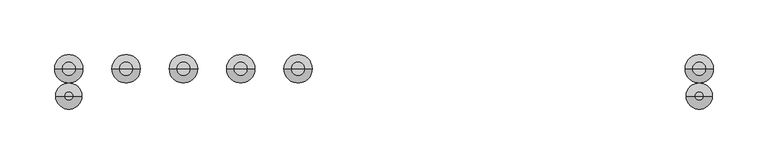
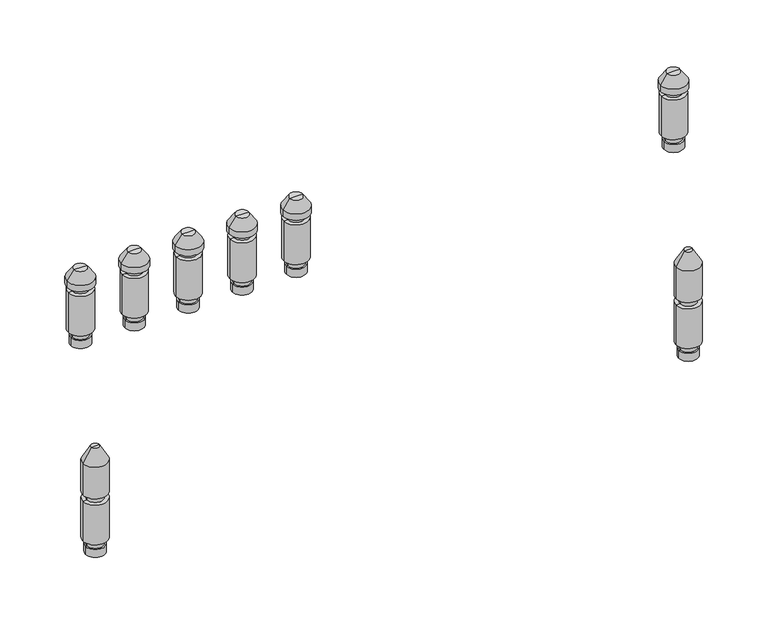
"""IFC4 building model written with IfcOpenShell, lengths in millimetres: valve geometry, PL AT_Manifold_FT-EV : 13 circuits."""

from ifc_helpers import new_model, si_unit, frame, origin, place, context, project, spatial, polyline, circle_curve, source, transform, mapped, element, save
from ifc_brep_helpers import plane_surface, cylinder_surface, revolved_surface, advanced_brep


def valve_b9f81a7f(model_context):
    return source(origin(), model_context, "Body", "AdvancedBrep", [
        advanced_brep(
        [(295.0, 25.0, 164.88733), (314.0, 25.0, 164.88733), (304.5, 25.0, 164.88733), (295.0, 25.0, 172.9630354), (314.0, 25.0, 172.9630354), (296.5, 25.0, 172.9630354), (312.5, 25.0, 172.9630354), (296.5, 25.0, 179.669747), (312.5, 25.0, 179.669747), (292.5, 25.0, 179.669747), (316.5, 25.0, 179.669747), (292.5, 25.0, 220.330253), (316.5, 25.0, 220.330253), (296.5, 25.0, 220.330253), (312.5, 25.0, 220.330253), (296.5, 25.0, 226.0474786), (312.5, 25.0, 226.0474786), (291.5, 25.0, 226.0474786), (317.5, 25.0, 226.0474786), (291.5, 25.0, 232.337955), (317.5, 25.0, 232.337955), (298.1551779, 25.0, 241.842534), (310.8448221, 25.0, 241.842534), (304.5, 25.0, 241.842534)],
        [
            (0, 1, circle_curve(frame((304.5, 25.0, 164.88733), z_axis=(0.0, 0.0, -1.0), x_axis=(1.0, 0.0, 0.0)), 9.5)),
            (1, 2),
            (2, 0),
            (1, 0, circle_curve(frame((304.5, 25.0, 164.88733), z_axis=(0.0, 0.0, -1.0), x_axis=(1.0, 0.0, 0.0)), 9.5)),
            (3, 4, circle_curve(frame((304.5, 25.0, 172.9630354), z_axis=(0.0, 0.0, -1.0), x_axis=(1.0, 0.0, 0.0)), 9.5)),
            (4, 1),
            (0, 3),
            (4, 3, circle_curve(frame((304.5, 25.0, 172.9630354), z_axis=(0.0, 0.0, -1.0), x_axis=(1.0, 0.0, 0.0)), 9.5)),
            (5, 6, circle_curve(frame((304.5, 25.0, 172.9630354), z_axis=(0.0, 0.0, -1.0), x_axis=(1.0, 0.0, 0.0)), 8.0)),
            (6, 4),
            (3, 5),
            (6, 5, circle_curve(frame((304.5, 25.0, 172.9630354), z_axis=(0.0, 0.0, -1.0), x_axis=(1.0, 0.0, 0.0)), 8.0)),
            (7, 8, circle_curve(frame((304.5, 25.0, 179.669747), z_axis=(0.0, 0.0, -1.0), x_axis=(1.0, 0.0, 0.0)), 8.0)),
            (8, 6),
            (5, 7),
            (8, 7, circle_curve(frame((304.5, 25.0, 179.669747), z_axis=(0.0, 0.0, -1.0), x_axis=(1.0, 0.0, 0.0)), 8.0)),
            (9, 10, circle_curve(frame((304.5, 25.0, 179.669747), z_axis=(0.0, 0.0, -1.0), x_axis=(1.0, 0.0, 0.0)), 12.0)),
            (10, 8),
            (7, 9),
            (10, 9, circle_curve(frame((304.5, 25.0, 179.669747), z_axis=(0.0, 0.0, -1.0), x_axis=(1.0, 0.0, 0.0)), 12.0)),
            (11, 12, circle_curve(frame((304.5, 25.0, 220.330253), z_axis=(0.0, 0.0, -1.0), x_axis=(1.0, 0.0, 0.0)), 12.0)),
            (12, 10),
            (9, 11),
            (12, 11, circle_curve(frame((304.5, 25.0, 220.330253), z_axis=(0.0, 0.0, -1.0), x_axis=(1.0, 0.0, 0.0)), 12.0)),
            (13, 14, circle_curve(frame((304.5, 25.0, 220.330253), z_axis=(0.0, 0.0, -1.0), x_axis=(1.0, 0.0, 0.0)), 8.0)),
            (14, 12),
            (11, 13),
            (14, 13, circle_curve(frame((304.5, 25.0, 220.330253), z_axis=(0.0, 0.0, -1.0), x_axis=(1.0, 0.0, 0.0)), 8.0)),
            (15, 16, circle_curve(frame((304.5, 25.0, 226.0474786), z_axis=(0.0, 0.0, -1.0), x_axis=(1.0, 0.0, 0.0)), 8.0)),
            (16, 14),
            (13, 15),
            (16, 15, circle_curve(frame((304.5, 25.0, 226.0474786), z_axis=(0.0, 0.0, -1.0), x_axis=(1.0, 0.0, 0.0)), 8.0)),
            (17, 18, circle_curve(frame((304.5, 25.0, 226.0474786), z_axis=(0.0, 0.0, -1.0), x_axis=(1.0, 0.0, 0.0)), 13.0)),
            (18, 16),
            (15, 17),
            (18, 17, circle_curve(frame((304.5, 25.0, 226.0474786), z_axis=(0.0, 0.0, -1.0), x_axis=(1.0, 0.0, 0.0)), 13.0)),
            (19, 20, circle_curve(frame((304.5, 25.0, 232.337955), z_axis=(0.0, 0.0, -1.0), x_axis=(1.0, 0.0, 0.0)), 13.0)),
            (20, 18),
            (17, 19),
            (20, 19, circle_curve(frame((304.5, 25.0, 232.337955), z_axis=(0.0, 0.0, -1.0), x_axis=(1.0, 0.0, 0.0)), 13.0)),
            (21, 22, circle_curve(frame((304.5, 25.0, 241.842534), z_axis=(0.0, 0.0, -1.0), x_axis=(1.0, 0.0, 0.0)), 6.3448221)),
            (22, 20),
            (19, 21),
            (22, 21, circle_curve(frame((304.5, 25.0, 241.842534), z_axis=(0.0, 0.0, -1.0), x_axis=(1.0, 0.0, 0.0)), 6.3448221)),
            (23, 22),
            (21, 23),
        ],
        [
            plane_surface(frame((304.5, 25.0, 164.88733), z_axis=(0.0, 0.0, -1.0), x_axis=(1.0, 0.0, 0.0))),
            cylinder_surface(frame((304.5, 25.0, 237.7026565), z_axis=(0.0, 0.0, 1.0), x_axis=(1.0, 0.0, 0.0)), 9.5),
            plane_surface(frame((304.5, 25.0, 172.9630354), z_axis=(0.0, 0.0, 1.0), x_axis=(1.0, 0.0, 0.0))),
            cylinder_surface(frame((304.5, 25.0, 237.7026565), z_axis=(0.0, 0.0, 1.0), x_axis=(1.0, 0.0, 0.0)), 8.0),
            plane_surface(frame((304.5, 25.0, 179.669747), z_axis=(0.0, 0.0, -1.0), x_axis=(1.0, 0.0, 0.0))),
            cylinder_surface(frame((304.5, 25.0, 237.7026565), z_axis=(0.0, 0.0, 1.0), x_axis=(1.0, 0.0, 0.0)), 12.0),
            plane_surface(frame((304.5, 25.0, 220.330253), z_axis=(0.0, 0.0, 1.0), x_axis=(1.0, 0.0, 0.0))),
            plane_surface(frame((304.5, 25.0, 226.0474786), z_axis=(0.0, 0.0, -1.0), x_axis=(1.0, 0.0, 0.0))),
            cylinder_surface(frame((304.5, 25.0, 237.7026565), z_axis=(0.0, 0.0, 1.0), x_axis=(1.0, 0.0, 0.0)), 13.0),
            revolved_surface(polyline([(317.5, 25.0, 232.337955), (310.8448221, 25.0, 241.842534)]), (304.5, 25.0, 237.7026565), (0.0, 0.0, 1.0)),
            plane_surface(frame((304.5, 25.0, 241.842534), z_axis=(0.0, 0.0, 1.0), x_axis=(1.0, 0.0, 0.0))),
        ],
        [
            (0, [[1, 2, 3]]),
            (0, [[4, -3, -2]]),
            (1, [[5, 6, -1, 7]]),
            (1, [[8, -7, -4, -6]]),
            (2, [[9, 10, -5, 11]]),
            (2, [[12, -11, -8, -10]]),
            (3, [[13, 14, -9, 15]]),
            (3, [[16, -15, -12, -14]]),
            (4, [[17, 18, -13, 19]]),
            (4, [[20, -19, -16, -18]]),
            (5, [[21, 22, -17, 23]]),
            (5, [[24, -23, -20, -22]]),
            (6, [[25, 26, -21, 27]]),
            (6, [[28, -27, -24, -26]]),
            (3, [[29, 30, -25, 31]]),
            (3, [[32, -31, -28, -30]]),
            (7, [[33, 34, -29, 35]]),
            (7, [[36, -35, -32, -34]]),
            (8, [[37, 38, -33, 39]]),
            (8, [[40, -39, -36, -38]]),
            (9, [[41, 42, -37, 43]]),
            (9, [[44, -43, -40, -42]]),
            (10, [[45, -41, 46]]),
            (10, [[-46, -44, -45]]),
        ],
    ),
        advanced_brep(
        [(242.5, 25.0, 164.88733), (261.5, 25.0, 164.88733), (252.0, 25.0, 164.88733), (242.5, 25.0, 172.9630354), (261.5, 25.0, 172.9630354), (244.0, 25.0, 172.9630354), (260.0, 25.0, 172.9630354), (244.0, 25.0, 179.669747), (260.0, 25.0, 179.669747), (240.0, 25.0, 179.669747), (264.0, 25.0, 179.669747), (240.0, 25.0, 220.330253), (264.0, 25.0, 220.330253), (244.0, 25.0, 220.330253), (260.0, 25.0, 220.330253), (244.0, 25.0, 226.0474786), (260.0, 25.0, 226.0474786), (239.0, 25.0, 226.0474786), (265.0, 25.0, 226.0474786), (239.0, 25.0, 232.337955), (265.0, 25.0, 232.337955), (245.6551779, 25.0, 241.842534), (258.3448221, 25.0, 241.842534), (252.0, 25.0, 241.842534)],
        [
            (0, 1, circle_curve(frame((252.0, 25.0, 164.88733), z_axis=(0.0, 0.0, -1.0), x_axis=(1.0, 0.0, 0.0)), 9.5)),
            (1, 2),
            (2, 0),
            (1, 0, circle_curve(frame((252.0, 25.0, 164.88733), z_axis=(0.0, 0.0, -1.0), x_axis=(1.0, 0.0, 0.0)), 9.5)),
            (3, 4, circle_curve(frame((252.0, 25.0, 172.9630354), z_axis=(0.0, 0.0, -1.0), x_axis=(1.0, 0.0, 0.0)), 9.5)),
            (4, 1),
            (0, 3),
            (4, 3, circle_curve(frame((252.0, 25.0, 172.9630354), z_axis=(0.0, 0.0, -1.0), x_axis=(1.0, 0.0, 0.0)), 9.5)),
            (5, 6, circle_curve(frame((252.0, 25.0, 172.9630354), z_axis=(0.0, 0.0, -1.0), x_axis=(1.0, 0.0, 0.0)), 8.0)),
            (6, 4),
            (3, 5),
            (6, 5, circle_curve(frame((252.0, 25.0, 172.9630354), z_axis=(0.0, 0.0, -1.0), x_axis=(1.0, 0.0, 0.0)), 8.0)),
            (7, 8, circle_curve(frame((252.0, 25.0, 179.669747), z_axis=(0.0, 0.0, -1.0), x_axis=(1.0, 0.0, 0.0)), 8.0)),
            (8, 6),
            (5, 7),
            (8, 7, circle_curve(frame((252.0, 25.0, 179.669747), z_axis=(0.0, 0.0, -1.0), x_axis=(1.0, 0.0, 0.0)), 8.0)),
            (9, 10, circle_curve(frame((252.0, 25.0, 179.669747), z_axis=(0.0, 0.0, -1.0), x_axis=(1.0, 0.0, 0.0)), 12.0)),
            (10, 8),
            (7, 9),
            (10, 9, circle_curve(frame((252.0, 25.0, 179.669747), z_axis=(0.0, 0.0, -1.0), x_axis=(1.0, 0.0, 0.0)), 12.0)),
            (11, 12, circle_curve(frame((252.0, 25.0, 220.330253), z_axis=(0.0, 0.0, -1.0), x_axis=(1.0, 0.0, 0.0)), 12.0)),
            (12, 10),
            (9, 11),
            (12, 11, circle_curve(frame((252.0, 25.0, 220.330253), z_axis=(0.0, 0.0, -1.0), x_axis=(1.0, 0.0, 0.0)), 12.0)),
            (13, 14, circle_curve(frame((252.0, 25.0, 220.330253), z_axis=(0.0, 0.0, -1.0), x_axis=(1.0, 0.0, 0.0)), 8.0)),
            (14, 12),
            (11, 13),
            (14, 13, circle_curve(frame((252.0, 25.0, 220.330253), z_axis=(0.0, 0.0, -1.0), x_axis=(1.0, 0.0, 0.0)), 8.0)),
            (15, 16, circle_curve(frame((252.0, 25.0, 226.0474786), z_axis=(0.0, 0.0, -1.0), x_axis=(1.0, 0.0, 0.0)), 8.0)),
            (16, 14),
            (13, 15),
            (16, 15, circle_curve(frame((252.0, 25.0, 226.0474786), z_axis=(0.0, 0.0, -1.0), x_axis=(1.0, 0.0, 0.0)), 8.0)),
            (17, 18, circle_curve(frame((252.0, 25.0, 226.0474786), z_axis=(0.0, 0.0, -1.0), x_axis=(1.0, 0.0, 0.0)), 13.0)),
            (18, 16),
            (15, 17),
            (18, 17, circle_curve(frame((252.0, 25.0, 226.0474786), z_axis=(0.0, 0.0, -1.0), x_axis=(1.0, 0.0, 0.0)), 13.0)),
            (19, 20, circle_curve(frame((252.0, 25.0, 232.337955), z_axis=(0.0, 0.0, -1.0), x_axis=(1.0, 0.0, 0.0)), 13.0)),
            (20, 18),
            (17, 19),
            (20, 19, circle_curve(frame((252.0, 25.0, 232.337955), z_axis=(0.0, 0.0, -1.0), x_axis=(1.0, 0.0, 0.0)), 13.0)),
            (21, 22, circle_curve(frame((252.0, 25.0, 241.842534), z_axis=(0.0, 0.0, -1.0), x_axis=(1.0, 0.0, 0.0)), 6.3448221)),
            (22, 20),
            (19, 21),
            (22, 21, circle_curve(frame((252.0, 25.0, 241.842534), z_axis=(0.0, 0.0, -1.0), x_axis=(1.0, 0.0, 0.0)), 6.3448221)),
            (23, 22),
            (21, 23),
        ],
        [
            plane_surface(frame((252.0, 25.0, 164.88733), z_axis=(0.0, 0.0, -1.0), x_axis=(1.0, 0.0, 0.0))),
            cylinder_surface(frame((252.0, 25.0, 237.7026565), z_axis=(0.0, 0.0, 1.0), x_axis=(1.0, 0.0, 0.0)), 9.5),
            plane_surface(frame((252.0, 25.0, 172.9630354), z_axis=(0.0, 0.0, 1.0), x_axis=(1.0, 0.0, 0.0))),
            cylinder_surface(frame((252.0, 25.0, 237.7026565), z_axis=(0.0, 0.0, 1.0), x_axis=(1.0, 0.0, 0.0)), 8.0),
            plane_surface(frame((252.0, 25.0, 179.669747), z_axis=(0.0, 0.0, -1.0), x_axis=(1.0, 0.0, 0.0))),
            cylinder_surface(frame((252.0, 25.0, 237.7026565), z_axis=(0.0, 0.0, 1.0), x_axis=(1.0, 0.0, 0.0)), 12.0),
            plane_surface(frame((252.0, 25.0, 220.330253), z_axis=(0.0, 0.0, 1.0), x_axis=(1.0, 0.0, 0.0))),
            plane_surface(frame((252.0, 25.0, 226.0474786), z_axis=(0.0, 0.0, -1.0), x_axis=(1.0, 0.0, 0.0))),
            cylinder_surface(frame((252.0, 25.0, 237.7026565), z_axis=(0.0, 0.0, 1.0), x_axis=(1.0, 0.0, 0.0)), 13.0),
            revolved_surface(polyline([(265.0, 25.0, 232.337955), (258.3448221, 25.0, 241.842534)]), (252.0, 25.0, 237.7026565), (0.0, 0.0, 1.0)),
            plane_surface(frame((252.0, 25.0, 241.842534), z_axis=(0.0, 0.0, 1.0), x_axis=(1.0, 0.0, 0.0))),
        ],
        [
            (0, [[1, 2, 3]]),
            (0, [[4, -3, -2]]),
            (1, [[5, 6, -1, 7]]),
            (1, [[8, -7, -4, -6]]),
            (2, [[9, 10, -5, 11]]),
            (2, [[12, -11, -8, -10]]),
            (3, [[13, 14, -9, 15]]),
            (3, [[16, -15, -12, -14]]),
            (4, [[17, 18, -13, 19]]),
            (4, [[20, -19, -16, -18]]),
            (5, [[21, 22, -17, 23]]),
            (5, [[24, -23, -20, -22]]),
            (6, [[25, 26, -21, 27]]),
            (6, [[28, -27, -24, -26]]),
            (3, [[29, 30, -25, 31]]),
            (3, [[32, -31, -28, -30]]),
            (7, [[33, 34, -29, 35]]),
            (7, [[36, -35, -32, -34]]),
            (8, [[37, 38, -33, 39]]),
            (8, [[40, -39, -36, -38]]),
            (9, [[41, 42, -37, 43]]),
            (9, [[44, -43, -40, -42]]),
            (10, [[45, -41, 46]]),
            (10, [[-46, -44, -45]]),
        ],
    ),
        advanced_brep(
        [(190.0, 25.0, 164.88733), (209.0, 25.0, 164.88733), (199.5, 25.0, 164.88733), (190.0, 25.0, 172.9630354), (209.0, 25.0, 172.9630354), (191.5, 25.0, 172.9630354), (207.5, 25.0, 172.9630354), (191.5, 25.0, 179.669747), (207.5, 25.0, 179.669747), (187.5, 25.0, 179.669747), (211.5, 25.0, 179.669747), (187.5, 25.0, 220.330253), (211.5, 25.0, 220.330253), (191.5, 25.0, 220.330253), (207.5, 25.0, 220.330253), (191.5, 25.0, 226.0474786), (207.5, 25.0, 226.0474786), (186.5, 25.0, 226.0474786), (212.5, 25.0, 226.0474786), (186.5, 25.0, 232.337955), (212.5, 25.0, 232.337955), (193.1551779, 25.0, 241.842534), (205.8448221, 25.0, 241.842534), (199.5, 25.0, 241.842534)],
        [
            (0, 1, circle_curve(frame((199.5, 25.0, 164.88733), z_axis=(0.0, 0.0, -1.0), x_axis=(1.0, 0.0, 0.0)), 9.5)),
            (1, 2),
            (2, 0),
            (1, 0, circle_curve(frame((199.5, 25.0, 164.88733), z_axis=(0.0, 0.0, -1.0), x_axis=(1.0, 0.0, 0.0)), 9.5)),
            (3, 4, circle_curve(frame((199.5, 25.0, 172.9630354), z_axis=(0.0, 0.0, -1.0), x_axis=(1.0, 0.0, 0.0)), 9.5)),
            (4, 1),
            (0, 3),
            (4, 3, circle_curve(frame((199.5, 25.0, 172.9630354), z_axis=(0.0, 0.0, -1.0), x_axis=(1.0, 0.0, 0.0)), 9.5)),
            (5, 6, circle_curve(frame((199.5, 25.0, 172.9630354), z_axis=(0.0, 0.0, -1.0), x_axis=(1.0, 0.0, 0.0)), 8.0)),
            (6, 4),
            (3, 5),
            (6, 5, circle_curve(frame((199.5, 25.0, 172.9630354), z_axis=(0.0, 0.0, -1.0), x_axis=(1.0, 0.0, 0.0)), 8.0)),
            (7, 8, circle_curve(frame((199.5, 25.0, 179.669747), z_axis=(0.0, 0.0, -1.0), x_axis=(1.0, 0.0, 0.0)), 8.0)),
            (8, 6),
            (5, 7),
            (8, 7, circle_curve(frame((199.5, 25.0, 179.669747), z_axis=(0.0, 0.0, -1.0), x_axis=(1.0, 0.0, 0.0)), 8.0)),
            (9, 10, circle_curve(frame((199.5, 25.0, 179.669747), z_axis=(0.0, 0.0, -1.0), x_axis=(1.0, 0.0, 0.0)), 12.0)),
            (10, 8),
            (7, 9),
            (10, 9, circle_curve(frame((199.5, 25.0, 179.669747), z_axis=(0.0, 0.0, -1.0), x_axis=(1.0, 0.0, 0.0)), 12.0)),
            (11, 12, circle_curve(frame((199.5, 25.0, 220.330253), z_axis=(0.0, 0.0, -1.0), x_axis=(1.0, 0.0, 0.0)), 12.0)),
            (12, 10),
            (9, 11),
            (12, 11, circle_curve(frame((199.5, 25.0, 220.330253), z_axis=(0.0, 0.0, -1.0), x_axis=(1.0, 0.0, 0.0)), 12.0)),
            (13, 14, circle_curve(frame((199.5, 25.0, 220.330253), z_axis=(0.0, 0.0, -1.0), x_axis=(1.0, 0.0, 0.0)), 8.0)),
            (14, 12),
            (11, 13),
            (14, 13, circle_curve(frame((199.5, 25.0, 220.330253), z_axis=(0.0, 0.0, -1.0), x_axis=(1.0, 0.0, 0.0)), 8.0)),
            (15, 16, circle_curve(frame((199.5, 25.0, 226.0474786), z_axis=(0.0, 0.0, -1.0), x_axis=(1.0, 0.0, 0.0)), 8.0)),
            (16, 14),
            (13, 15),
            (16, 15, circle_curve(frame((199.5, 25.0, 226.0474786), z_axis=(0.0, 0.0, -1.0), x_axis=(1.0, 0.0, 0.0)), 8.0)),
            (17, 18, circle_curve(frame((199.5, 25.0, 226.0474786), z_axis=(0.0, 0.0, -1.0), x_axis=(1.0, 0.0, 0.0)), 13.0)),
            (18, 16),
            (15, 17),
            (18, 17, circle_curve(frame((199.5, 25.0, 226.0474786), z_axis=(0.0, 0.0, -1.0), x_axis=(1.0, 0.0, 0.0)), 13.0)),
            (19, 20, circle_curve(frame((199.5, 25.0, 232.337955), z_axis=(0.0, 0.0, -1.0), x_axis=(1.0, 0.0, 0.0)), 13.0)),
            (20, 18),
            (17, 19),
            (20, 19, circle_curve(frame((199.5, 25.0, 232.337955), z_axis=(0.0, 0.0, -1.0), x_axis=(1.0, 0.0, 0.0)), 13.0)),
            (21, 22, circle_curve(frame((199.5, 25.0, 241.842534), z_axis=(0.0, 0.0, -1.0), x_axis=(1.0, 0.0, 0.0)), 6.3448221)),
            (22, 20),
            (19, 21),
            (22, 21, circle_curve(frame((199.5, 25.0, 241.842534), z_axis=(0.0, 0.0, -1.0), x_axis=(1.0, 0.0, 0.0)), 6.3448221)),
            (23, 22),
            (21, 23),
        ],
        [
            plane_surface(frame((199.5, 25.0, 164.88733), z_axis=(0.0, 0.0, -1.0), x_axis=(1.0, 0.0, 0.0))),
            cylinder_surface(frame((199.5, 25.0, 237.7026565), z_axis=(0.0, 0.0, 1.0), x_axis=(1.0, 0.0, 0.0)), 9.5),
            plane_surface(frame((199.5, 25.0, 172.9630354), z_axis=(0.0, 0.0, 1.0), x_axis=(1.0, 0.0, 0.0))),
            cylinder_surface(frame((199.5, 25.0, 237.7026565), z_axis=(0.0, 0.0, 1.0), x_axis=(1.0, 0.0, 0.0)), 8.0),
            plane_surface(frame((199.5, 25.0, 179.669747), z_axis=(0.0, 0.0, -1.0), x_axis=(1.0, 0.0, 0.0))),
            cylinder_surface(frame((199.5, 25.0, 237.7026565), z_axis=(0.0, 0.0, 1.0), x_axis=(1.0, 0.0, 0.0)), 12.0),
            plane_surface(frame((199.5, 25.0, 220.330253), z_axis=(0.0, 0.0, 1.0), x_axis=(1.0, 0.0, 0.0))),
            plane_surface(frame((199.5, 25.0, 226.0474786), z_axis=(0.0, 0.0, -1.0), x_axis=(1.0, 0.0, 0.0))),
            cylinder_surface(frame((199.5, 25.0, 237.7026565), z_axis=(0.0, 0.0, 1.0), x_axis=(1.0, 0.0, 0.0)), 13.0),
            revolved_surface(polyline([(212.5, 25.0, 232.337955), (205.8448221, 25.0, 241.842534)]), (199.5, 25.0, 237.7026565), (0.0, 0.0, 1.0)),
            plane_surface(frame((199.5, 25.0, 241.842534), z_axis=(0.0, 0.0, 1.0), x_axis=(1.0, 0.0, 0.0))),
        ],
        [
            (0, [[1, 2, 3]]),
            (0, [[4, -3, -2]]),
            (1, [[5, 6, -1, 7]]),
            (1, [[8, -7, -4, -6]]),
            (2, [[9, 10, -5, 11]]),
            (2, [[12, -11, -8, -10]]),
            (3, [[13, 14, -9, 15]]),
            (3, [[16, -15, -12, -14]]),
            (4, [[17, 18, -13, 19]]),
            (4, [[20, -19, -16, -18]]),
            (5, [[21, 22, -17, 23]]),
            (5, [[24, -23, -20, -22]]),
            (6, [[25, 26, -21, 27]]),
            (6, [[28, -27, -24, -26]]),
            (3, [[29, 30, -25, 31]]),
            (3, [[32, -31, -28, -30]]),
            (7, [[33, 34, -29, 35]]),
            (7, [[36, -35, -32, -34]]),
            (8, [[37, 38, -33, 39]]),
            (8, [[40, -39, -36, -38]]),
            (9, [[41, 42, -37, 43]]),
            (9, [[44, -43, -40, -42]]),
            (10, [[45, -41, 46]]),
            (10, [[-46, -44, -45]]),
        ],
    ),
        advanced_brep(
        [(137.5, 25.0, 164.88733), (156.5, 25.0, 164.88733), (147.0, 25.0, 164.88733), (137.5, 25.0, 172.9630354), (156.5, 25.0, 172.9630354), (139.0, 25.0, 172.9630354), (155.0, 25.0, 172.9630354), (139.0, 25.0, 179.669747), (155.0, 25.0, 179.669747), (135.0, 25.0, 179.669747), (159.0, 25.0, 179.669747), (135.0, 25.0, 220.330253), (159.0, 25.0, 220.330253), (139.0, 25.0, 220.330253), (155.0, 25.0, 220.330253), (139.0, 25.0, 226.0474786), (155.0, 25.0, 226.0474786), (134.0, 25.0, 226.0474786), (160.0, 25.0, 226.0474786), (134.0, 25.0, 232.337955), (160.0, 25.0, 232.337955), (140.6551779, 25.0, 241.842534), (153.3448221, 25.0, 241.842534), (147.0, 25.0, 241.842534)],
        [
            (0, 1, circle_curve(frame((147.0, 25.0, 164.88733), z_axis=(0.0, 0.0, -1.0), x_axis=(1.0, 0.0, 0.0)), 9.5)),
            (1, 2),
            (2, 0),
            (1, 0, circle_curve(frame((147.0, 25.0, 164.88733), z_axis=(0.0, 0.0, -1.0), x_axis=(1.0, 0.0, 0.0)), 9.5)),
            (3, 4, circle_curve(frame((147.0, 25.0, 172.9630354), z_axis=(0.0, 0.0, -1.0), x_axis=(1.0, 0.0, 0.0)), 9.5)),
            (4, 1),
            (0, 3),
            (4, 3, circle_curve(frame((147.0, 25.0, 172.9630354), z_axis=(0.0, 0.0, -1.0), x_axis=(1.0, 0.0, 0.0)), 9.5)),
            (5, 6, circle_curve(frame((147.0, 25.0, 172.9630354), z_axis=(0.0, 0.0, -1.0), x_axis=(1.0, 0.0, 0.0)), 8.0)),
            (6, 4),
            (3, 5),
            (6, 5, circle_curve(frame((147.0, 25.0, 172.9630354), z_axis=(0.0, 0.0, -1.0), x_axis=(1.0, 0.0, 0.0)), 8.0)),
            (7, 8, circle_curve(frame((147.0, 25.0, 179.669747), z_axis=(0.0, 0.0, -1.0), x_axis=(1.0, 0.0, 0.0)), 8.0)),
            (8, 6),
            (5, 7),
            (8, 7, circle_curve(frame((147.0, 25.0, 179.669747), z_axis=(0.0, 0.0, -1.0), x_axis=(1.0, 0.0, 0.0)), 8.0)),
            (9, 10, circle_curve(frame((147.0, 25.0, 179.669747), z_axis=(0.0, 0.0, -1.0), x_axis=(1.0, 0.0, 0.0)), 12.0)),
            (10, 8),
            (7, 9),
            (10, 9, circle_curve(frame((147.0, 25.0, 179.669747), z_axis=(0.0, 0.0, -1.0), x_axis=(1.0, 0.0, 0.0)), 12.0)),
            (11, 12, circle_curve(frame((147.0, 25.0, 220.330253), z_axis=(0.0, 0.0, -1.0), x_axis=(1.0, 0.0, 0.0)), 12.0)),
            (12, 10),
            (9, 11),
            (12, 11, circle_curve(frame((147.0, 25.0, 220.330253), z_axis=(0.0, 0.0, -1.0), x_axis=(1.0, 0.0, 0.0)), 12.0)),
            (13, 14, circle_curve(frame((147.0, 25.0, 220.330253), z_axis=(0.0, 0.0, -1.0), x_axis=(1.0, 0.0, 0.0)), 8.0)),
            (14, 12),
            (11, 13),
            (14, 13, circle_curve(frame((147.0, 25.0, 220.330253), z_axis=(0.0, 0.0, -1.0), x_axis=(1.0, 0.0, 0.0)), 8.0)),
            (15, 16, circle_curve(frame((147.0, 25.0, 226.0474786), z_axis=(0.0, 0.0, -1.0), x_axis=(1.0, 0.0, 0.0)), 8.0)),
            (16, 14),
            (13, 15),
            (16, 15, circle_curve(frame((147.0, 25.0, 226.0474786), z_axis=(0.0, 0.0, -1.0), x_axis=(1.0, 0.0, 0.0)), 8.0)),
            (17, 18, circle_curve(frame((147.0, 25.0, 226.0474786), z_axis=(0.0, 0.0, -1.0), x_axis=(1.0, 0.0, 0.0)), 13.0)),
            (18, 16),
            (15, 17),
            (18, 17, circle_curve(frame((147.0, 25.0, 226.0474786), z_axis=(0.0, 0.0, -1.0), x_axis=(1.0, 0.0, 0.0)), 13.0)),
            (19, 20, circle_curve(frame((147.0, 25.0, 232.337955), z_axis=(0.0, 0.0, -1.0), x_axis=(1.0, 0.0, 0.0)), 13.0)),
            (20, 18),
            (17, 19),
            (20, 19, circle_curve(frame((147.0, 25.0, 232.337955), z_axis=(0.0, 0.0, -1.0), x_axis=(1.0, 0.0, 0.0)), 13.0)),
            (21, 22, circle_curve(frame((147.0, 25.0, 241.842534), z_axis=(0.0, 0.0, -1.0), x_axis=(1.0, 0.0, 0.0)), 6.3448221)),
            (22, 20),
            (19, 21),
            (22, 21, circle_curve(frame((147.0, 25.0, 241.842534), z_axis=(0.0, 0.0, -1.0), x_axis=(1.0, 0.0, 0.0)), 6.3448221)),
            (23, 22),
            (21, 23),
        ],
        [
            plane_surface(frame((147.0, 25.0, 164.88733), z_axis=(0.0, 0.0, -1.0), x_axis=(1.0, 0.0, 0.0))),
            cylinder_surface(frame((147.0, 25.0, 237.7026565), z_axis=(0.0, 0.0, 1.0), x_axis=(1.0, 0.0, 0.0)), 9.5),
            plane_surface(frame((147.0, 25.0, 172.9630354), z_axis=(0.0, 0.0, 1.0), x_axis=(1.0, 0.0, 0.0))),
            cylinder_surface(frame((147.0, 25.0, 237.7026565), z_axis=(0.0, 0.0, 1.0), x_axis=(1.0, 0.0, 0.0)), 8.0),
            plane_surface(frame((147.0, 25.0, 179.669747), z_axis=(0.0, 0.0, -1.0), x_axis=(1.0, 0.0, 0.0))),
            cylinder_surface(frame((147.0, 25.0, 237.7026565), z_axis=(0.0, 0.0, 1.0), x_axis=(1.0, 0.0, 0.0)), 12.0),
            plane_surface(frame((147.0, 25.0, 220.330253), z_axis=(0.0, 0.0, 1.0), x_axis=(1.0, 0.0, 0.0))),
            plane_surface(frame((147.0, 25.0, 226.0474786), z_axis=(0.0, 0.0, -1.0), x_axis=(1.0, 0.0, 0.0))),
            cylinder_surface(frame((147.0, 25.0, 237.7026565), z_axis=(0.0, 0.0, 1.0), x_axis=(1.0, 0.0, 0.0)), 13.0),
            revolved_surface(polyline([(160.0, 25.0, 232.337955), (153.3448221, 25.0, 241.842534)]), (147.0, 25.0, 237.7026565), (0.0, 0.0, 1.0)),
            plane_surface(frame((147.0, 25.0, 241.842534), z_axis=(0.0, 0.0, 1.0), x_axis=(1.0, 0.0, 0.0))),
        ],
        [
            (0, [[1, 2, 3]]),
            (0, [[4, -3, -2]]),
            (1, [[5, 6, -1, 7]]),
            (1, [[8, -7, -4, -6]]),
            (2, [[9, 10, -5, 11]]),
            (2, [[12, -11, -8, -10]]),
            (3, [[13, 14, -9, 15]]),
            (3, [[16, -15, -12, -14]]),
            (4, [[17, 18, -13, 19]]),
            (4, [[20, -19, -16, -18]]),
            (5, [[21, 22, -17, 23]]),
            (5, [[24, -23, -20, -22]]),
            (6, [[25, 26, -21, 27]]),
            (6, [[28, -27, -24, -26]]),
            (3, [[29, 30, -25, 31]]),
            (3, [[32, -31, -28, -30]]),
            (7, [[33, 34, -29, 35]]),
            (7, [[36, -35, -32, -34]]),
            (8, [[37, 38, -33, 39]]),
            (8, [[40, -39, -36, -38]]),
            (9, [[41, 42, -37, 43]]),
            (9, [[44, -43, -40, -42]]),
            (10, [[45, -41, 46]]),
            (10, [[-46, -44, -45]]),
        ],
    ),
        advanced_brep(
        [(85.0, 0.0, -35.11267), (104.0, 0.0, -35.11267), (94.5, 0.0, -35.11267), (85.0, 0.0, -27.0369646), (104.0, 0.0, -27.0369646), (86.5, 0.0, -27.0369646), (102.5, 0.0, -27.0369646), (86.5, 0.0, -20.330253), (102.5, 0.0, -20.330253), (82.5, 0.0, -20.330253), (106.5, 0.0, -20.330253), (82.5, 0.0, 20.330253), (106.5, 0.0, 20.330253), (86.5, 0.0, 20.330253), (102.5, 0.0, 20.330253), (86.5, 0.0, 27.0474786), (102.5, 0.0, 27.0474786), (82.5, 0.0, 27.0474786), (106.5, 0.0, 27.0474786), (82.5, 0.0, 59.4084325), (106.5, 0.0, 59.4084325), (90.5, 0.0, 73.264839), (98.5, 0.0, 73.264839), (94.5, 0.0, 73.264839)],
        [
            (0, 1, circle_curve(frame((94.5, 0.0, -35.11267), z_axis=(0.0, 0.0, -1.0), x_axis=(1.0, 0.0, 0.0)), 9.5)),
            (1, 2),
            (2, 0),
            (1, 0, circle_curve(frame((94.5, 0.0, -35.11267), z_axis=(0.0, 0.0, -1.0), x_axis=(1.0, 0.0, 0.0)), 9.5)),
            (3, 4, circle_curve(frame((94.5, 0.0, -27.0369646), z_axis=(0.0, 0.0, -1.0), x_axis=(1.0, 0.0, 0.0)), 9.5)),
            (4, 1),
            (0, 3),
            (4, 3, circle_curve(frame((94.5, 0.0, -27.0369646), z_axis=(0.0, 0.0, -1.0), x_axis=(1.0, 0.0, 0.0)), 9.5)),
            (5, 6, circle_curve(frame((94.5, 0.0, -27.0369646), z_axis=(0.0, 0.0, -1.0), x_axis=(1.0, 0.0, 0.0)), 8.0)),
            (6, 4),
            (3, 5),
            (6, 5, circle_curve(frame((94.5, 0.0, -27.0369646), z_axis=(0.0, 0.0, -1.0), x_axis=(1.0, 0.0, 0.0)), 8.0)),
            (7, 8, circle_curve(frame((94.5, 0.0, -20.330253), z_axis=(0.0, 0.0, -1.0), x_axis=(1.0, 0.0, 0.0)), 8.0)),
            (8, 6),
            (5, 7),
            (8, 7, circle_curve(frame((94.5, 0.0, -20.330253), z_axis=(0.0, 0.0, -1.0), x_axis=(1.0, 0.0, 0.0)), 8.0)),
            (9, 10, circle_curve(frame((94.5, 0.0, -20.330253), z_axis=(0.0, 0.0, -1.0), x_axis=(1.0, 0.0, 0.0)), 12.0)),
            (10, 8),
            (7, 9),
            (10, 9, circle_curve(frame((94.5, 0.0, -20.330253), z_axis=(0.0, 0.0, -1.0), x_axis=(1.0, 0.0, 0.0)), 12.0)),
            (11, 12, circle_curve(frame((94.5, 0.0, 20.330253), z_axis=(0.0, 0.0, -1.0), x_axis=(1.0, 0.0, 0.0)), 12.0)),
            (12, 10),
            (9, 11),
            (12, 11, circle_curve(frame((94.5, 0.0, 20.330253), z_axis=(0.0, 0.0, -1.0), x_axis=(1.0, 0.0, 0.0)), 12.0)),
            (13, 14, circle_curve(frame((94.5, 0.0, 20.330253), z_axis=(0.0, 0.0, -1.0), x_axis=(1.0, 0.0, 0.0)), 8.0)),
            (14, 12),
            (11, 13),
            (14, 13, circle_curve(frame((94.5, 0.0, 20.330253), z_axis=(0.0, 0.0, -1.0), x_axis=(1.0, 0.0, 0.0)), 8.0)),
            (15, 16, circle_curve(frame((94.5, 0.0, 27.0474786), z_axis=(0.0, 0.0, -1.0), x_axis=(1.0, 0.0, 0.0)), 8.0)),
            (16, 14),
            (13, 15),
            (16, 15, circle_curve(frame((94.5, 0.0, 27.0474786), z_axis=(0.0, 0.0, -1.0), x_axis=(1.0, 0.0, 0.0)), 8.0)),
            (17, 18, circle_curve(frame((94.5, 0.0, 27.0474786), z_axis=(0.0, 0.0, -1.0), x_axis=(1.0, 0.0, 0.0)), 12.0)),
            (18, 16),
            (15, 17),
            (18, 17, circle_curve(frame((94.5, 0.0, 27.0474786), z_axis=(0.0, 0.0, -1.0), x_axis=(1.0, 0.0, 0.0)), 12.0)),
            (19, 20, circle_curve(frame((94.5, 0.0, 59.4084325), z_axis=(0.0, 0.0, -1.0), x_axis=(1.0, 0.0, 0.0)), 12.0)),
            (20, 18),
            (17, 19),
            (20, 19, circle_curve(frame((94.5, 0.0, 59.4084325), z_axis=(0.0, 0.0, -1.0), x_axis=(1.0, 0.0, 0.0)), 12.0)),
            (21, 22, circle_curve(frame((94.5, 0.0, 73.264839), z_axis=(0.0, 0.0, -1.0), x_axis=(1.0, 0.0, 0.0)), 4.0)),
            (22, 20),
            (19, 21),
            (22, 21, circle_curve(frame((94.5, 0.0, 73.264839), z_axis=(0.0, 0.0, -1.0), x_axis=(1.0, 0.0, 0.0)), 4.0)),
            (23, 22),
            (21, 23),
        ],
        [
            plane_surface(frame((94.5, 0.0, -35.11267), z_axis=(0.0, 0.0, -1.0), x_axis=(1.0, 0.0, 0.0))),
            cylinder_surface(frame((94.5, 0.0, 58.264839), z_axis=(0.0, 0.0, 1.0), x_axis=(1.0, 0.0, 0.0)), 9.5),
            plane_surface(frame((94.5, 0.0, -27.0369646), z_axis=(0.0, 0.0, 1.0), x_axis=(1.0, 0.0, 0.0))),
            cylinder_surface(frame((94.5, 0.0, 58.264839), z_axis=(0.0, 0.0, 1.0), x_axis=(1.0, 0.0, 0.0)), 8.0),
            plane_surface(frame((94.5, 0.0, -20.330253), z_axis=(0.0, 0.0, -1.0), x_axis=(1.0, 0.0, 0.0))),
            cylinder_surface(frame((94.5, 0.0, 58.264839), z_axis=(0.0, 0.0, 1.0), x_axis=(1.0, 0.0, 0.0)), 12.0),
            plane_surface(frame((94.5, 0.0, 20.330253), z_axis=(0.0, 0.0, 1.0), x_axis=(1.0, 0.0, 0.0))),
            plane_surface(frame((94.5, 0.0, 27.0474786), z_axis=(0.0, 0.0, -1.0), x_axis=(1.0, 0.0, 0.0))),
            revolved_surface(polyline([(106.5, 0.0, 59.4084325), (98.5, 0.0, 73.264839)]), (94.5, 0.0, 58.264839), (0.0, 0.0, 1.0)),
            plane_surface(frame((94.5, 0.0, 73.264839), z_axis=(0.0, 0.0, 1.0), x_axis=(1.0, 0.0, 0.0))),
        ],
        [
            (0, [[1, 2, 3]]),
            (0, [[4, -3, -2]]),
            (1, [[5, 6, -1, 7]]),
            (1, [[8, -7, -4, -6]]),
            (2, [[9, 10, -5, 11]]),
            (2, [[12, -11, -8, -10]]),
            (3, [[13, 14, -9, 15]]),
            (3, [[16, -15, -12, -14]]),
            (4, [[17, 18, -13, 19]]),
            (4, [[20, -19, -16, -18]]),
            (5, [[21, 22, -17, 23]]),
            (5, [[24, -23, -20, -22]]),
            (6, [[25, 26, -21, 27]]),
            (6, [[28, -27, -24, -26]]),
            (3, [[29, 30, -25, 31]]),
            (3, [[32, -31, -28, -30]]),
            (7, [[33, 34, -29, 35]]),
            (7, [[36, -35, -32, -34]]),
            (5, [[37, 38, -33, 39]]),
            (5, [[40, -39, -36, -38]]),
            (8, [[41, 42, -37, 43]]),
            (8, [[44, -43, -40, -42]]),
            (9, [[45, -41, 46]]),
            (9, [[-46, -44, -45]]),
        ],
    ),
        advanced_brep(
        [(85.0, 25.0, 164.88733), (104.0, 25.0, 164.88733), (94.5, 25.0, 164.88733), (85.0, 25.0, 172.9630354), (104.0, 25.0, 172.9630354), (86.5, 25.0, 172.9630354), (102.5, 25.0, 172.9630354), (86.5, 25.0, 179.669747), (102.5, 25.0, 179.669747), (82.5, 25.0, 179.669747), (106.5, 25.0, 179.669747), (82.5, 25.0, 220.330253), (106.5, 25.0, 220.330253), (86.5, 25.0, 220.330253), (102.5, 25.0, 220.330253), (86.5, 25.0, 226.0474786), (102.5, 25.0, 226.0474786), (81.5, 25.0, 226.0474786), (107.5, 25.0, 226.0474786), (81.5, 25.0, 232.337955), (107.5, 25.0, 232.337955), (88.1551779, 25.0, 241.842534), (100.8448221, 25.0, 241.842534), (94.5, 25.0, 241.842534)],
        [
            (0, 1, circle_curve(frame((94.5, 25.0, 164.88733), z_axis=(0.0, 0.0, -1.0), x_axis=(1.0, 0.0, 0.0)), 9.5)),
            (1, 2),
            (2, 0),
            (1, 0, circle_curve(frame((94.5, 25.0, 164.88733), z_axis=(0.0, 0.0, -1.0), x_axis=(1.0, 0.0, 0.0)), 9.5)),
            (3, 4, circle_curve(frame((94.5, 25.0, 172.9630354), z_axis=(0.0, 0.0, -1.0), x_axis=(1.0, 0.0, 0.0)), 9.5)),
            (4, 1),
            (0, 3),
            (4, 3, circle_curve(frame((94.5, 25.0, 172.9630354), z_axis=(0.0, 0.0, -1.0), x_axis=(1.0, 0.0, 0.0)), 9.5)),
            (5, 6, circle_curve(frame((94.5, 25.0, 172.9630354), z_axis=(0.0, 0.0, -1.0), x_axis=(1.0, 0.0, 0.0)), 8.0)),
            (6, 4),
            (3, 5),
            (6, 5, circle_curve(frame((94.5, 25.0, 172.9630354), z_axis=(0.0, 0.0, -1.0), x_axis=(1.0, 0.0, 0.0)), 8.0)),
            (7, 8, circle_curve(frame((94.5, 25.0, 179.669747), z_axis=(0.0, 0.0, -1.0), x_axis=(1.0, 0.0, 0.0)), 8.0)),
            (8, 6),
            (5, 7),
            (8, 7, circle_curve(frame((94.5, 25.0, 179.669747), z_axis=(0.0, 0.0, -1.0), x_axis=(1.0, 0.0, 0.0)), 8.0)),
            (9, 10, circle_curve(frame((94.5, 25.0, 179.669747), z_axis=(0.0, 0.0, -1.0), x_axis=(1.0, 0.0, 0.0)), 12.0)),
            (10, 8),
            (7, 9),
            (10, 9, circle_curve(frame((94.5, 25.0, 179.669747), z_axis=(0.0, 0.0, -1.0), x_axis=(1.0, 0.0, 0.0)), 12.0)),
            (11, 12, circle_curve(frame((94.5, 25.0, 220.330253), z_axis=(0.0, 0.0, -1.0), x_axis=(1.0, 0.0, 0.0)), 12.0)),
            (12, 10),
            (9, 11),
            (12, 11, circle_curve(frame((94.5, 25.0, 220.330253), z_axis=(0.0, 0.0, -1.0), x_axis=(1.0, 0.0, 0.0)), 12.0)),
            (13, 14, circle_curve(frame((94.5, 25.0, 220.330253), z_axis=(0.0, 0.0, -1.0), x_axis=(1.0, 0.0, 0.0)), 8.0)),
            (14, 12),
            (11, 13),
            (14, 13, circle_curve(frame((94.5, 25.0, 220.330253), z_axis=(0.0, 0.0, -1.0), x_axis=(1.0, 0.0, 0.0)), 8.0)),
            (15, 16, circle_curve(frame((94.5, 25.0, 226.0474786), z_axis=(0.0, 0.0, -1.0), x_axis=(1.0, 0.0, 0.0)), 8.0)),
            (16, 14),
            (13, 15),
            (16, 15, circle_curve(frame((94.5, 25.0, 226.0474786), z_axis=(0.0, 0.0, -1.0), x_axis=(1.0, 0.0, 0.0)), 8.0)),
            (17, 18, circle_curve(frame((94.5, 25.0, 226.0474786), z_axis=(0.0, 0.0, -1.0), x_axis=(1.0, 0.0, 0.0)), 13.0)),
            (18, 16),
            (15, 17),
            (18, 17, circle_curve(frame((94.5, 25.0, 226.0474786), z_axis=(0.0, 0.0, -1.0), x_axis=(1.0, 0.0, 0.0)), 13.0)),
            (19, 20, circle_curve(frame((94.5, 25.0, 232.337955), z_axis=(0.0, 0.0, -1.0), x_axis=(1.0, 0.0, 0.0)), 13.0)),
            (20, 18),
            (17, 19),
            (20, 19, circle_curve(frame((94.5, 25.0, 232.337955), z_axis=(0.0, 0.0, -1.0), x_axis=(1.0, 0.0, 0.0)), 13.0)),
            (21, 22, circle_curve(frame((94.5, 25.0, 241.842534), z_axis=(0.0, 0.0, -1.0), x_axis=(1.0, 0.0, 0.0)), 6.3448221)),
            (22, 20),
            (19, 21),
            (22, 21, circle_curve(frame((94.5, 25.0, 241.842534), z_axis=(0.0, 0.0, -1.0), x_axis=(1.0, 0.0, 0.0)), 6.3448221)),
            (23, 22),
            (21, 23),
        ],
        [
            plane_surface(frame((94.5, 25.0, 164.88733), z_axis=(0.0, 0.0, -1.0), x_axis=(1.0, 0.0, 0.0))),
            cylinder_surface(frame((94.5, 25.0, 237.7026565), z_axis=(0.0, 0.0, 1.0), x_axis=(1.0, 0.0, 0.0)), 9.5),
            plane_surface(frame((94.5, 25.0, 172.9630354), z_axis=(0.0, 0.0, 1.0), x_axis=(1.0, 0.0, 0.0))),
            cylinder_surface(frame((94.5, 25.0, 237.7026565), z_axis=(0.0, 0.0, 1.0), x_axis=(1.0, 0.0, 0.0)), 8.0),
            plane_surface(frame((94.5, 25.0, 179.669747), z_axis=(0.0, 0.0, -1.0), x_axis=(1.0, 0.0, 0.0))),
            cylinder_surface(frame((94.5, 25.0, 237.7026565), z_axis=(0.0, 0.0, 1.0), x_axis=(1.0, 0.0, 0.0)), 12.0),
            plane_surface(frame((94.5, 25.0, 220.330253), z_axis=(0.0, 0.0, 1.0), x_axis=(1.0, 0.0, 0.0))),
            plane_surface(frame((94.5, 25.0, 226.0474786), z_axis=(0.0, 0.0, -1.0), x_axis=(1.0, 0.0, 0.0))),
            cylinder_surface(frame((94.5, 25.0, 237.7026565), z_axis=(0.0, 0.0, 1.0), x_axis=(1.0, 0.0, 0.0)), 13.0),
            revolved_surface(polyline([(107.5, 25.0, 232.337955), (100.8448221, 25.0, 241.842534)]), (94.5, 25.0, 237.7026565), (0.0, 0.0, 1.0)),
            plane_surface(frame((94.5, 25.0, 241.842534), z_axis=(0.0, 0.0, 1.0), x_axis=(1.0, 0.0, 0.0))),
        ],
        [
            (0, [[1, 2, 3]]),
            (0, [[4, -3, -2]]),
            (1, [[5, 6, -1, 7]]),
            (1, [[8, -7, -4, -6]]),
            (2, [[9, 10, -5, 11]]),
            (2, [[12, -11, -8, -10]]),
            (3, [[13, 14, -9, 15]]),
            (3, [[16, -15, -12, -14]]),
            (4, [[17, 18, -13, 19]]),
            (4, [[20, -19, -16, -18]]),
            (5, [[21, 22, -17, 23]]),
            (5, [[24, -23, -20, -22]]),
            (6, [[25, 26, -21, 27]]),
            (6, [[28, -27, -24, -26]]),
            (3, [[29, 30, -25, 31]]),
            (3, [[32, -31, -28, -30]]),
            (7, [[33, 34, -29, 35]]),
            (7, [[36, -35, -32, -34]]),
            (8, [[37, 38, -33, 39]]),
            (8, [[40, -39, -36, -38]]),
            (9, [[41, 42, -37, 43]]),
            (9, [[44, -43, -40, -42]]),
            (10, [[45, -41, 46]]),
            (10, [[-46, -44, -45]]),
        ],
    ),
        advanced_brep(
        [(662.5, 0.0, -35.11267), (681.5, 0.0, -35.11267), (672.0, 0.0, -35.11267), (662.5, 0.0, -27.0369646), (681.5, 0.0, -27.0369646), (664.0, 0.0, -27.0369646), (680.0, 0.0, -27.0369646), (664.0, 0.0, -20.330253), (680.0, 0.0, -20.330253), (660.0, 0.0, -20.330253), (684.0, 0.0, -20.330253), (660.0, 0.0, 20.330253), (684.0, 0.0, 20.330253), (664.0, 0.0, 20.330253), (680.0, 0.0, 20.330253), (664.0, 0.0, 27.0474786), (680.0, 0.0, 27.0474786), (660.0, 0.0, 27.0474786), (684.0, 0.0, 27.0474786), (660.0, 0.0, 59.4084325), (684.0, 0.0, 59.4084325), (668.0, 0.0, 73.264839), (676.0, 0.0, 73.264839), (672.0, 0.0, 73.264839)],
        [
            (0, 1, circle_curve(frame((672.0, 0.0, -35.11267), z_axis=(0.0, 0.0, -1.0), x_axis=(1.0, 0.0, 0.0)), 9.5)),
            (1, 2),
            (2, 0),
            (1, 0, circle_curve(frame((672.0, 0.0, -35.11267), z_axis=(0.0, 0.0, -1.0), x_axis=(1.0, 0.0, 0.0)), 9.5)),
            (3, 4, circle_curve(frame((672.0, 0.0, -27.0369646), z_axis=(0.0, 0.0, -1.0), x_axis=(1.0, 0.0, 0.0)), 9.5)),
            (4, 1),
            (0, 3),
            (4, 3, circle_curve(frame((672.0, 0.0, -27.0369646), z_axis=(0.0, 0.0, -1.0), x_axis=(1.0, 0.0, 0.0)), 9.5)),
            (5, 6, circle_curve(frame((672.0, 0.0, -27.0369646), z_axis=(0.0, 0.0, -1.0), x_axis=(1.0, 0.0, 0.0)), 8.0)),
            (6, 4),
            (3, 5),
            (6, 5, circle_curve(frame((672.0, 0.0, -27.0369646), z_axis=(0.0, 0.0, -1.0), x_axis=(1.0, 0.0, 0.0)), 8.0)),
            (7, 8, circle_curve(frame((672.0, 0.0, -20.330253), z_axis=(0.0, 0.0, -1.0), x_axis=(1.0, 0.0, 0.0)), 8.0)),
            (8, 6),
            (5, 7),
            (8, 7, circle_curve(frame((672.0, 0.0, -20.330253), z_axis=(0.0, 0.0, -1.0), x_axis=(1.0, 0.0, 0.0)), 8.0)),
            (9, 10, circle_curve(frame((672.0, 0.0, -20.330253), z_axis=(0.0, 0.0, -1.0), x_axis=(1.0, 0.0, 0.0)), 12.0)),
            (10, 8),
            (7, 9),
            (10, 9, circle_curve(frame((672.0, 0.0, -20.330253), z_axis=(0.0, 0.0, -1.0), x_axis=(1.0, 0.0, 0.0)), 12.0)),
            (11, 12, circle_curve(frame((672.0, 0.0, 20.330253), z_axis=(0.0, 0.0, -1.0), x_axis=(1.0, 0.0, 0.0)), 12.0)),
            (12, 10),
            (9, 11),
            (12, 11, circle_curve(frame((672.0, 0.0, 20.330253), z_axis=(0.0, 0.0, -1.0), x_axis=(1.0, 0.0, 0.0)), 12.0)),
            (13, 14, circle_curve(frame((672.0, 0.0, 20.330253), z_axis=(0.0, 0.0, -1.0), x_axis=(1.0, 0.0, 0.0)), 8.0)),
            (14, 12),
            (11, 13),
            (14, 13, circle_curve(frame((672.0, 0.0, 20.330253), z_axis=(0.0, 0.0, -1.0), x_axis=(1.0, 0.0, 0.0)), 8.0)),
            (15, 16, circle_curve(frame((672.0, 0.0, 27.0474786), z_axis=(0.0, 0.0, -1.0), x_axis=(1.0, 0.0, 0.0)), 8.0)),
            (16, 14),
            (13, 15),
            (16, 15, circle_curve(frame((672.0, 0.0, 27.0474786), z_axis=(0.0, 0.0, -1.0), x_axis=(1.0, 0.0, 0.0)), 8.0)),
            (17, 18, circle_curve(frame((672.0, 0.0, 27.0474786), z_axis=(0.0, 0.0, -1.0), x_axis=(1.0, 0.0, 0.0)), 12.0)),
            (18, 16),
            (15, 17),
            (18, 17, circle_curve(frame((672.0, 0.0, 27.0474786), z_axis=(0.0, 0.0, -1.0), x_axis=(1.0, 0.0, 0.0)), 12.0)),
            (19, 20, circle_curve(frame((672.0, 0.0, 59.4084325), z_axis=(0.0, 0.0, -1.0), x_axis=(1.0, 0.0, 0.0)), 12.0)),
            (20, 18),
            (17, 19),
            (20, 19, circle_curve(frame((672.0, 0.0, 59.4084325), z_axis=(0.0, 0.0, -1.0), x_axis=(1.0, 0.0, 0.0)), 12.0)),
            (21, 22, circle_curve(frame((672.0, 0.0, 73.264839), z_axis=(0.0, 0.0, -1.0), x_axis=(1.0, 0.0, 0.0)), 4.0)),
            (22, 20),
            (19, 21),
            (22, 21, circle_curve(frame((672.0, 0.0, 73.264839), z_axis=(0.0, 0.0, -1.0), x_axis=(1.0, 0.0, 0.0)), 4.0)),
            (23, 22),
            (21, 23),
        ],
        [
            plane_surface(frame((672.0, 0.0, -35.11267), z_axis=(0.0, 0.0, -1.0), x_axis=(1.0, 0.0, 0.0))),
            cylinder_surface(frame((672.0, 0.0, 58.264839), z_axis=(0.0, 0.0, 1.0), x_axis=(1.0, 0.0, 0.0)), 9.5),
            plane_surface(frame((672.0, 0.0, -27.0369646), z_axis=(0.0, 0.0, 1.0), x_axis=(1.0, 0.0, 0.0))),
            cylinder_surface(frame((672.0, 0.0, 58.264839), z_axis=(0.0, 0.0, 1.0), x_axis=(1.0, 0.0, 0.0)), 8.0),
            plane_surface(frame((672.0, 0.0, -20.330253), z_axis=(0.0, 0.0, -1.0), x_axis=(1.0, 0.0, 0.0))),
            cylinder_surface(frame((672.0, 0.0, 58.264839), z_axis=(0.0, 0.0, 1.0), x_axis=(1.0, 0.0, 0.0)), 12.0),
            plane_surface(frame((672.0, 0.0, 20.330253), z_axis=(0.0, 0.0, 1.0), x_axis=(1.0, 0.0, 0.0))),
            plane_surface(frame((672.0, 0.0, 27.0474786), z_axis=(0.0, 0.0, -1.0), x_axis=(1.0, 0.0, 0.0))),
            revolved_surface(polyline([(684.0, 0.0, 59.4084325), (676.0, 0.0, 73.264839)]), (672.0, 0.0, 58.264839), (0.0, 0.0, 1.0)),
            plane_surface(frame((672.0, 0.0, 73.264839), z_axis=(0.0, 0.0, 1.0), x_axis=(1.0, 0.0, 0.0))),
        ],
        [
            (0, [[1, 2, 3]]),
            (0, [[4, -3, -2]]),
            (1, [[5, 6, -1, 7]]),
            (1, [[8, -7, -4, -6]]),
            (2, [[9, 10, -5, 11]]),
            (2, [[12, -11, -8, -10]]),
            (3, [[13, 14, -9, 15]]),
            (3, [[16, -15, -12, -14]]),
            (4, [[17, 18, -13, 19]]),
            (4, [[20, -19, -16, -18]]),
            (5, [[21, 22, -17, 23]]),
            (5, [[24, -23, -20, -22]]),
            (6, [[25, 26, -21, 27]]),
            (6, [[28, -27, -24, -26]]),
            (3, [[29, 30, -25, 31]]),
            (3, [[32, -31, -28, -30]]),
            (7, [[33, 34, -29, 35]]),
            (7, [[36, -35, -32, -34]]),
            (5, [[37, 38, -33, 39]]),
            (5, [[40, -39, -36, -38]]),
            (8, [[41, 42, -37, 43]]),
            (8, [[44, -43, -40, -42]]),
            (9, [[45, -41, 46]]),
            (9, [[-46, -44, -45]]),
        ],
    ),
        advanced_brep(
        [(662.5, 25.0, 164.88733), (681.5, 25.0, 164.88733), (672.0, 25.0, 164.88733), (662.5, 25.0, 172.9630354), (681.5, 25.0, 172.9630354), (664.0, 25.0, 172.9630354), (680.0, 25.0, 172.9630354), (664.0, 25.0, 179.669747), (680.0, 25.0, 179.669747), (660.0, 25.0, 179.669747), (684.0, 25.0, 179.669747), (660.0, 25.0, 220.330253), (684.0, 25.0, 220.330253), (664.0, 25.0, 220.330253), (680.0, 25.0, 220.330253), (664.0, 25.0, 226.0474786), (680.0, 25.0, 226.0474786), (659.0, 25.0, 226.0474786), (685.0, 25.0, 226.0474786), (659.0, 25.0, 232.337955), (685.0, 25.0, 232.337955), (665.6551779, 25.0, 241.842534), (678.3448221, 25.0, 241.842534), (672.0, 25.0, 241.842534)],
        [
            (0, 1, circle_curve(frame((672.0, 25.0, 164.88733), z_axis=(0.0, 0.0, -1.0), x_axis=(1.0, 0.0, 0.0)), 9.5)),
            (1, 2),
            (2, 0),
            (1, 0, circle_curve(frame((672.0, 25.0, 164.88733), z_axis=(0.0, 0.0, -1.0), x_axis=(1.0, 0.0, 0.0)), 9.5)),
            (3, 4, circle_curve(frame((672.0, 25.0, 172.9630354), z_axis=(0.0, 0.0, -1.0), x_axis=(1.0, 0.0, 0.0)), 9.5)),
            (4, 1),
            (0, 3),
            (4, 3, circle_curve(frame((672.0, 25.0, 172.9630354), z_axis=(0.0, 0.0, -1.0), x_axis=(1.0, 0.0, 0.0)), 9.5)),
            (5, 6, circle_curve(frame((672.0, 25.0, 172.9630354), z_axis=(0.0, 0.0, -1.0), x_axis=(1.0, 0.0, 0.0)), 8.0)),
            (6, 4),
            (3, 5),
            (6, 5, circle_curve(frame((672.0, 25.0, 172.9630354), z_axis=(0.0, 0.0, -1.0), x_axis=(1.0, 0.0, 0.0)), 8.0)),
            (7, 8, circle_curve(frame((672.0, 25.0, 179.669747), z_axis=(0.0, 0.0, -1.0), x_axis=(1.0, 0.0, 0.0)), 8.0)),
            (8, 6),
            (5, 7),
            (8, 7, circle_curve(frame((672.0, 25.0, 179.669747), z_axis=(0.0, 0.0, -1.0), x_axis=(1.0, 0.0, 0.0)), 8.0)),
            (9, 10, circle_curve(frame((672.0, 25.0, 179.669747), z_axis=(0.0, 0.0, -1.0), x_axis=(1.0, 0.0, 0.0)), 12.0)),
            (10, 8),
            (7, 9),
            (10, 9, circle_curve(frame((672.0, 25.0, 179.669747), z_axis=(0.0, 0.0, -1.0), x_axis=(1.0, 0.0, 0.0)), 12.0)),
            (11, 12, circle_curve(frame((672.0, 25.0, 220.330253), z_axis=(0.0, 0.0, -1.0), x_axis=(1.0, 0.0, 0.0)), 12.0)),
            (12, 10),
            (9, 11),
            (12, 11, circle_curve(frame((672.0, 25.0, 220.330253), z_axis=(0.0, 0.0, -1.0), x_axis=(1.0, 0.0, 0.0)), 12.0)),
            (13, 14, circle_curve(frame((672.0, 25.0, 220.330253), z_axis=(0.0, 0.0, -1.0), x_axis=(1.0, 0.0, 0.0)), 8.0)),
            (14, 12),
            (11, 13),
            (14, 13, circle_curve(frame((672.0, 25.0, 220.330253), z_axis=(0.0, 0.0, -1.0), x_axis=(1.0, 0.0, 0.0)), 8.0)),
            (15, 16, circle_curve(frame((672.0, 25.0, 226.0474786), z_axis=(0.0, 0.0, -1.0), x_axis=(1.0, 0.0, 0.0)), 8.0)),
            (16, 14),
            (13, 15),
            (16, 15, circle_curve(frame((672.0, 25.0, 226.0474786), z_axis=(0.0, 0.0, -1.0), x_axis=(1.0, 0.0, 0.0)), 8.0)),
            (17, 18, circle_curve(frame((672.0, 25.0, 226.0474786), z_axis=(0.0, 0.0, -1.0), x_axis=(1.0, 0.0, 0.0)), 13.0)),
            (18, 16),
            (15, 17),
            (18, 17, circle_curve(frame((672.0, 25.0, 226.0474786), z_axis=(0.0, 0.0, -1.0), x_axis=(1.0, 0.0, 0.0)), 13.0)),
            (19, 20, circle_curve(frame((672.0, 25.0, 232.337955), z_axis=(0.0, 0.0, -1.0), x_axis=(1.0, 0.0, 0.0)), 13.0)),
            (20, 18),
            (17, 19),
            (20, 19, circle_curve(frame((672.0, 25.0, 232.337955), z_axis=(0.0, 0.0, -1.0), x_axis=(1.0, 0.0, 0.0)), 13.0)),
            (21, 22, circle_curve(frame((672.0, 25.0, 241.842534), z_axis=(0.0, 0.0, -1.0), x_axis=(1.0, 0.0, 0.0)), 6.3448221)),
            (22, 20),
            (19, 21),
            (22, 21, circle_curve(frame((672.0, 25.0, 241.842534), z_axis=(0.0, 0.0, -1.0), x_axis=(1.0, 0.0, 0.0)), 6.3448221)),
            (23, 22),
            (21, 23),
        ],
        [
            plane_surface(frame((672.0, 25.0, 164.88733), z_axis=(0.0, 0.0, -1.0), x_axis=(1.0, 0.0, 0.0))),
            cylinder_surface(frame((672.0, 25.0, 237.7026565), z_axis=(0.0, 0.0, 1.0), x_axis=(1.0, 0.0, 0.0)), 9.5),
            plane_surface(frame((672.0, 25.0, 172.9630354), z_axis=(0.0, 0.0, 1.0), x_axis=(1.0, 0.0, 0.0))),
            cylinder_surface(frame((672.0, 25.0, 237.7026565), z_axis=(0.0, 0.0, 1.0), x_axis=(1.0, 0.0, 0.0)), 8.0),
            plane_surface(frame((672.0, 25.0, 179.669747), z_axis=(0.0, 0.0, -1.0), x_axis=(1.0, 0.0, 0.0))),
            cylinder_surface(frame((672.0, 25.0, 237.7026565), z_axis=(0.0, 0.0, 1.0), x_axis=(1.0, 0.0, 0.0)), 12.0),
            plane_surface(frame((672.0, 25.0, 220.330253), z_axis=(0.0, 0.0, 1.0), x_axis=(1.0, 0.0, 0.0))),
            plane_surface(frame((672.0, 25.0, 226.0474786), z_axis=(0.0, 0.0, -1.0), x_axis=(1.0, 0.0, 0.0))),
            cylinder_surface(frame((672.0, 25.0, 237.7026565), z_axis=(0.0, 0.0, 1.0), x_axis=(1.0, 0.0, 0.0)), 13.0),
            revolved_surface(polyline([(685.0, 25.0, 232.337955), (678.3448221, 25.0, 241.842534)]), (672.0, 25.0, 237.7026565), (0.0, 0.0, 1.0)),
            plane_surface(frame((672.0, 25.0, 241.842534), z_axis=(0.0, 0.0, 1.0), x_axis=(1.0, 0.0, 0.0))),
        ],
        [
            (0, [[1, 2, 3]]),
            (0, [[4, -3, -2]]),
            (1, [[5, 6, -1, 7]]),
            (1, [[8, -7, -4, -6]]),
            (2, [[9, 10, -5, 11]]),
            (2, [[12, -11, -8, -10]]),
            (3, [[13, 14, -9, 15]]),
            (3, [[16, -15, -12, -14]]),
            (4, [[17, 18, -13, 19]]),
            (4, [[20, -19, -16, -18]]),
            (5, [[21, 22, -17, 23]]),
            (5, [[24, -23, -20, -22]]),
            (6, [[25, 26, -21, 27]]),
            (6, [[28, -27, -24, -26]]),
            (3, [[29, 30, -25, 31]]),
            (3, [[32, -31, -28, -30]]),
            (7, [[33, 34, -29, 35]]),
            (7, [[36, -35, -32, -34]]),
            (8, [[37, 38, -33, 39]]),
            (8, [[40, -39, -36, -38]]),
            (9, [[41, 42, -37, 43]]),
            (9, [[44, -43, -40, -42]]),
            (10, [[45, -41, 46]]),
            (10, [[-46, -44, -45]]),
        ],
    ),
    ])


if __name__ == "__main__":
    model = new_model("IFC4")
    model_context = context("Model", 3, world=origin())
    ifc_project = project(units=[si_unit("LENGTHUNIT", "METRE", prefix="MILLI")], contexts=[model_context])
    site = spatial("IfcSite", under=ifc_project)
    building = spatial("IfcBuilding", under=site)
    placement = place(None, origin())
    valve_shape = valve_b9f81a7f(model_context)
    element("IfcValve", 1, ObjectType="PL AT_Manifold_FT-EV : 13 circuits", at=placement, inside=building, context=model_context, shape_type="MappedRepresentation", body=[
        mapped(valve_shape, transform((0.0, 0.0, 0.0), x_axis=(1.0, 0.0, 0.0), y_axis=(0.0, 1.0, 0.0), z_axis=(0.0, 0.0, 1.0))),
    ])
    save(model, "model.ifc")
